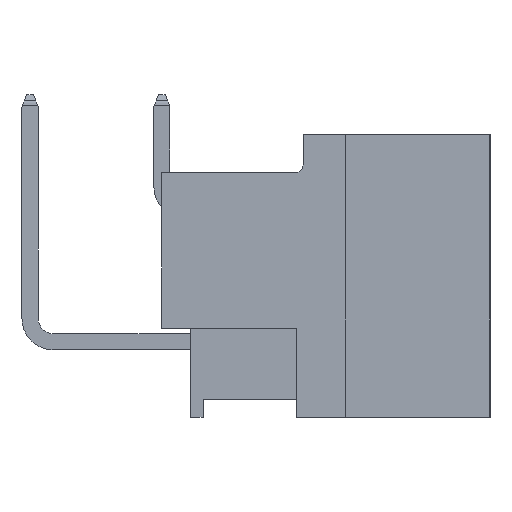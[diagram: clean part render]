
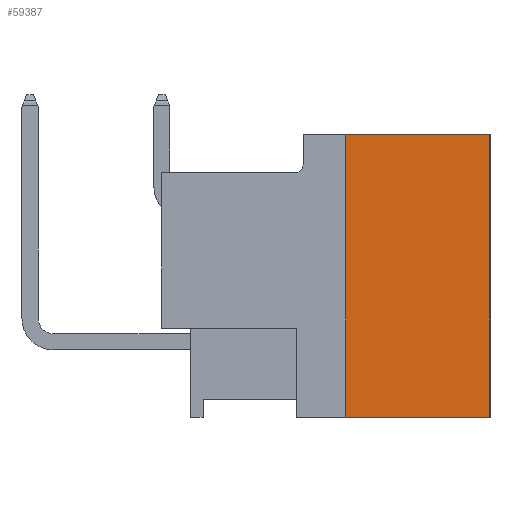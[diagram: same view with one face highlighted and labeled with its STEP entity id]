
A CAD part, left-side view. The second image highlights one B-rep face of the part: STEP entity #59387.
In plain terms, the highlighted planar face has unit normal (-1, 0, 0).
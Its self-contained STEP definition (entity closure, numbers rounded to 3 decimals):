
#18886 = VERTEX_POINT ( 'NONE', #49721 ) ;
#19111 = VERTEX_POINT ( 'NONE', #49861 ) ;
#23146 = DIRECTION ( 'NONE',  ( 0., 0., 1. ) ) ;
#23159 = VECTOR ( 'NONE', #23146, 1000. ) ;
#23160 = CARTESIAN_POINT ( 'NONE',  ( -23.68, 5.55, 48.424 ) ) ;
#23161 = LINE ( 'NONE', #23160, #23159 ) ;
#23269 = DIRECTION ( 'NONE',  ( 0., -1., 0. ) ) ;
#23270 = VECTOR ( 'NONE', #23269, 1000. ) ;
#23271 = CARTESIAN_POINT ( 'NONE',  ( -23.68, 5.55, -5.45 ) ) ;
#23272 = LINE ( 'NONE', #23271, #23270 ) ;
#23311 = DIRECTION ( 'NONE',  ( 0., 0., 1. ) ) ;
#23316 = LINE ( 'NONE', #23321, #23324 ) ;
#23321 = CARTESIAN_POINT ( 'NONE',  ( -23.68, 0., 5.45 ) ) ;
#23324 = VECTOR ( 'NONE', #23311, 1000. ) ;
#23482 = AXIS2_PLACEMENT_3D ( 'NONE', #23497, #23542, #23541 ) ;
#23495 = PLANE ( 'NONE',  #23482 ) ;
#23497 = CARTESIAN_POINT ( 'NONE',  ( -23.68, 5.55, 48.424 ) ) ;
#23520 = FACE_OUTER_BOUND ( 'NONE', #59316, .T. ) ;
#23541 = DIRECTION ( 'NONE',  ( 0., 0., 1. ) ) ;
#23542 = DIRECTION ( 'NONE',  ( -1., 0., 0. ) ) ;
#26454 = LINE ( 'NONE', #26484, #26483 ) ;
#26458 = CARTESIAN_POINT ( 'NONE',  ( -23.68, 5.55, 5.45 ) ) ;
#26482 = DIRECTION ( 'NONE',  ( 0., 1., 0. ) ) ;
#26483 = VECTOR ( 'NONE', #26482, 1000. ) ;
#26484 = CARTESIAN_POINT ( 'NONE',  ( -23.68, 5.55, 5.45 ) ) ;
#26537 = CARTESIAN_POINT ( 'NONE',  ( -23.68, 0., 5.45 ) ) ;
#49721 = CARTESIAN_POINT ( 'NONE',  ( -23.68, 0., -5.45 ) ) ;
#49861 = CARTESIAN_POINT ( 'NONE',  ( -23.68, 5.55, -5.45 ) ) ;
#59274 = EDGE_CURVE ( 'NONE', #19111, #66069, #23161, .T. ) ;
#59300 = EDGE_CURVE ( 'NONE', #19111, #18886, #23272, .T. ) ;
#59316 = EDGE_LOOP ( 'NONE', ( #59328, #59422, #59388, #59326 ) ) ;
#59318 = EDGE_CURVE ( 'NONE', #18886, #66260, #23316, .T. ) ;
#59326 = ORIENTED_EDGE ( 'NONE', *, *, #59274, .F. ) ;
#59328 = ORIENTED_EDGE ( 'NONE', *, *, #59300, .T. ) ;
#59387 = ADVANCED_FACE ( 'NONE', ( #23520 ), #23495, .T. ) ;
#59388 = ORIENTED_EDGE ( 'NONE', *, *, #66094, .T. ) ;
#59422 = ORIENTED_EDGE ( 'NONE', *, *, #59318, .T. ) ;
#66069 = VERTEX_POINT ( 'NONE', #26458 ) ;
#66094 = EDGE_CURVE ( 'NONE', #66260, #66069, #26454, .T. ) ;
#66260 = VERTEX_POINT ( 'NONE', #26537 ) ;
